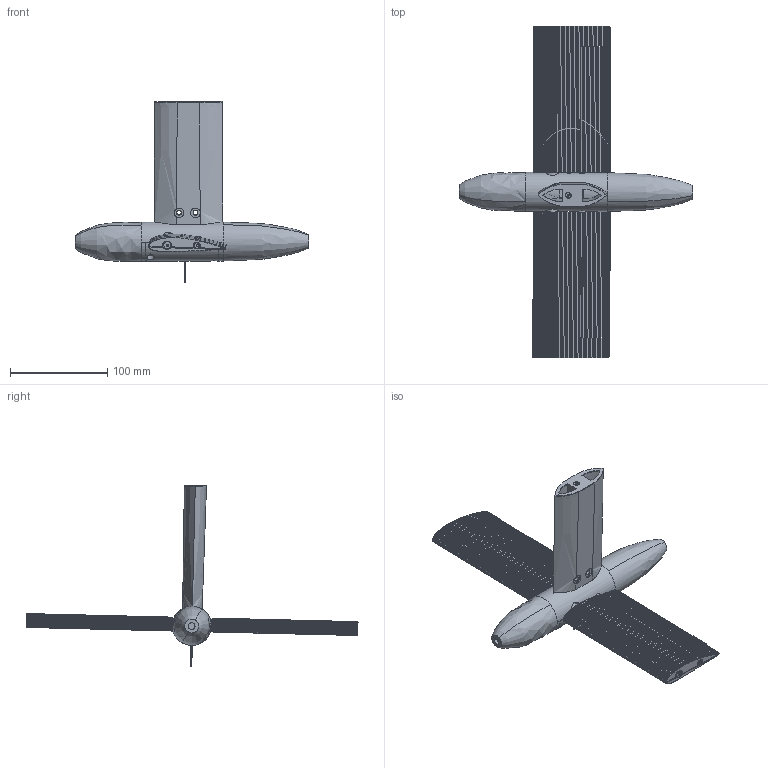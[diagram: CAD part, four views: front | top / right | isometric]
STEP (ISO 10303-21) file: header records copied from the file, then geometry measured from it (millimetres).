
FILE_DESCRIPTION(('CATIA V5 STEP Exchange'),'2;1');
FILE_NAME('C:\Users\Marco\Desktop\Ass foil 1M.stp','2023-08-20T13:57:05+00:00',('none'),('none'),'CATIA Version 5 Release 21 GA (IN-10)','CATIA V5 STEP AP203','none');
FILE_SCHEMA(('CONFIG_CONTROL_DESIGN'));
Length unit declared in the file: millimetre
Products named in the file (5): Ass foil 1M; Ass braccio 1M; Braccio foil composto SN; Ass Bulbo nuovo; Assancoretta bulbo
Assembly tree (38 placements, depth 4):
  Ass foil 1M
    Ass braccio 1M
      #66
      Braccio foil composto SN
        #97
        #6084
        #6107  x2
      #6158
      #6181  x2
    Ass Bulbo nuovo
      #6240
      #8794
      #11971
      #12739
      #14689
      #14935
      #15642  x2
      #17757  x2
      #19997  x3
      #20899  x2
      #21806  x2
      #22698
      #23338
      #30840
      Assancoretta bulbo
        #38407
        #40227  x2
      #40651
    #41556
    #45046
Bounding box: 240.06 x 341.25 x 186.44 mm (x, y, z)
Volume: 447925.7 mm3; surface area: 206709.7 mm2
Topology: 51 solids, 51 shells, 1490 faces, 4082 edges, 2543 vertices
Faces by surface type: plane 932, cylinder 262, cone 94, sphere 88, torus 70, bspline 32, revolution 8, extrusion 4
Entity records: 45665 total; most frequent: CARTESIAN_POINT 16182, ORIENTED_EDGE 6482, DIRECTION 5026, EDGE_CURVE 3241, VECTOR 2347, LINE 2343, VERTEX_POINT 2127, AXIS2_PLACEMENT_3D 1641
